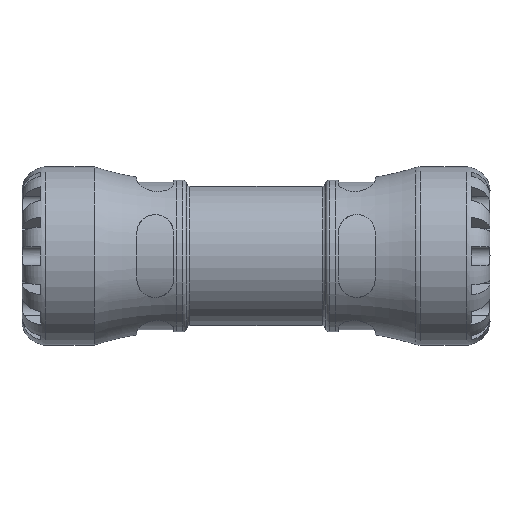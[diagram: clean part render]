
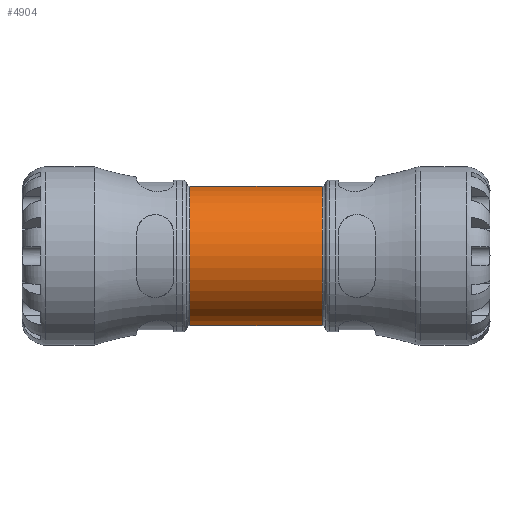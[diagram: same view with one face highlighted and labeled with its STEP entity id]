
A CAD part, front view. The second image highlights one B-rep face of the part: STEP entity #4904.
In plain terms, the highlighted cylindrical face has radius 33.15 mm (diameter 66.3 mm), a full revolution.
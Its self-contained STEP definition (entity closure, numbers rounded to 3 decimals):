
#407=FACE_BOUND('',#1323,.T.);
#426=LINE('',#7461,#682);
#682=VECTOR('',#5821,33.15);
#937=CYLINDRICAL_SURFACE('',#5214,33.15);
#1035=FACE_OUTER_BOUND('',#1322,.T.);
#1322=EDGE_LOOP('',(#3393,#3394,#3395,#3396));
#1323=EDGE_LOOP('',(#3397));
#1626=B_SPLINE_CURVE_WITH_KNOTS('',3,(#7420,#7421,#7422,#7423,#7424,#7425,
#7426,#7427,#7428,#7429,#7430,#7431,#7432,#7433,#7434,#7435,#7436,#7437,
#7438,#7439,#7440,#7441,#7442,#7443,#7444,#7445,#7446),.UNSPECIFIED.,.T.,
 .F.,(4,1,1,1,1,1,1,1,1,1,1,1,1,1,1,1,1,1,1,1,1,1,1,1,4),(-14.237,
-13.729,-13.22,-12.458,-12.203,
-11.525,-10.847,-10.678,-10.17,
-9.492,-8.814,-8.136,-7.627,
-7.119,-6.78,-6.102,-5.424,
-4.746,-4.068,-3.39,-2.712,
-2.034,-1.017,-0.508,0.),
 .UNSPECIFIED.);
#1825=CIRCLE('',#5215,33.15);
#1826=CIRCLE('',#5216,33.15);
#2129=VERTEX_POINT('',#7385);
#2136=VERTEX_POINT('',#7458);
#2137=VERTEX_POINT('',#7460);
#2621=EDGE_CURVE('',#2129,#2129,#1626,.T.);
#2627=EDGE_CURVE('',#2136,#2136,#1825,.T.);
#2628=EDGE_CURVE('',#2136,#2137,#426,.T.);
#2629=EDGE_CURVE('',#2137,#2137,#1826,.T.);
#3393=ORIENTED_EDGE('',*,*,#2627,.F.);
#3394=ORIENTED_EDGE('',*,*,#2628,.T.);
#3395=ORIENTED_EDGE('',*,*,#2629,.F.);
#3396=ORIENTED_EDGE('',*,*,#2628,.F.);
#3397=ORIENTED_EDGE('',*,*,#2621,.F.);
#4904=ADVANCED_FACE('',(#1035,#407),#937,.T.);
#5214=AXIS2_PLACEMENT_3D('',#7457,#5817,#5818);
#5215=AXIS2_PLACEMENT_3D('',#7459,#5819,#5820);
#5216=AXIS2_PLACEMENT_3D('',#7462,#5822,#5823);
#5817=DIRECTION('center_axis',(1.,0.,0.));
#5818=DIRECTION('ref_axis',(0.,1.,0.));
#5819=DIRECTION('center_axis',(1.,0.,0.));
#5820=DIRECTION('ref_axis',(0.,1.,0.));
#5821=DIRECTION('',(-1.,0.,0.));
#5822=DIRECTION('center_axis',(-1.,0.,0.));
#5823=DIRECTION('ref_axis',(0.,1.,0.));
#7385=CARTESIAN_POINT('',(0.022,23.985,22.883));
#7420=CARTESIAN_POINT('Ctrl Pts',(0.022,23.985,22.883));
#7421=CARTESIAN_POINT('Ctrl Pts',(1.846,23.987,22.882));
#7422=CARTESIAN_POINT('Ctrl Pts',(5.488,24.402,22.456));
#7423=CARTESIAN_POINT('Ctrl Pts',(11.276,26.21,20.4));
#7424=CARTESIAN_POINT('Ctrl Pts',(15.438,28.268,17.492));
#7425=CARTESIAN_POINT('Ctrl Pts',(19.239,30.415,13.387));
#7426=CARTESIAN_POINT('Ctrl Pts',(22.079,32.212,8.742));
#7427=CARTESIAN_POINT('Ctrl Pts',(23.357,33.074,3.537));
#7428=CARTESIAN_POINT('Ctrl Pts',(23.539,33.197,-1.208));
#7429=CARTESIAN_POINT('Ctrl Pts',(22.964,32.808,-5.949));
#7430=CARTESIAN_POINT('Ctrl Pts',(20.463,31.162,-11.874));
#7431=CARTESIAN_POINT('Ctrl Pts',(16.118,28.581,-17.064));
#7432=CARTESIAN_POINT('Ctrl Pts',(10.965,26.109,-20.517));
#7433=CARTESIAN_POINT('Ctrl Pts',(5.444,24.392,-22.466));
#7434=CARTESIAN_POINT('Ctrl Pts',(0.588,23.847,-23.025));
#7435=CARTESIAN_POINT('Ctrl Pts',(-4.891,24.259,-22.599));
#7436=CARTESIAN_POINT('Ctrl Pts',(-10.541,25.895,-20.813));
#7437=CARTESIAN_POINT('Ctrl Pts',(-16.146,28.6,-17.037));
#7438=CARTESIAN_POINT('Ctrl Pts',(-20.486,31.175,-11.838));
#7439=CARTESIAN_POINT('Ctrl Pts',(-23.202,32.965,-5.371));
#7440=CARTESIAN_POINT('Ctrl Pts',(-23.781,33.363,1.843));
#7441=CARTESIAN_POINT('Ctrl Pts',(-22.063,32.197,8.784));
#7442=CARTESIAN_POINT('Ctrl Pts',(-17.862,29.557,15.612));
#7443=CARTESIAN_POINT('Ctrl Pts',(-12.065,26.458,20.124));
#7444=CARTESIAN_POINT('Ctrl Pts',(-5.447,24.39,22.467));
#7445=CARTESIAN_POINT('Ctrl Pts',(-1.802,23.983,22.885));
#7446=CARTESIAN_POINT('Ctrl Pts',(0.022,23.985,22.883));
#7457=CARTESIAN_POINT('Origin',(16.575,0.,0.));
#7458=CARTESIAN_POINT('',(31.477,-33.15,0.));
#7459=CARTESIAN_POINT('Origin',(31.477,0.,0.));
#7460=CARTESIAN_POINT('',(-31.477,-33.15,0.));
#7461=CARTESIAN_POINT('',(16.575,-33.15,0.));
#7462=CARTESIAN_POINT('Origin',(-31.477,0.,0.));
